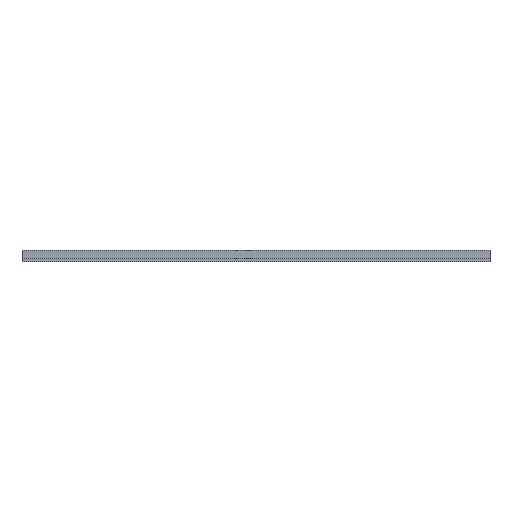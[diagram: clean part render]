
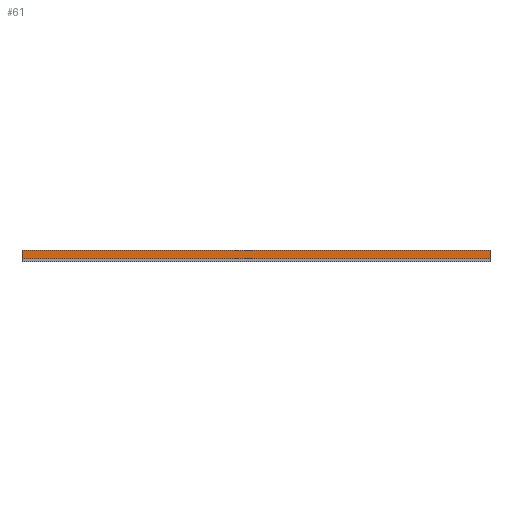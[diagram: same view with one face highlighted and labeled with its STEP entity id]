
A CAD part, front view. The second image highlights one B-rep face of the part: STEP entity #61.
In plain terms, the highlighted planar face has unit normal (0, -1, 0).
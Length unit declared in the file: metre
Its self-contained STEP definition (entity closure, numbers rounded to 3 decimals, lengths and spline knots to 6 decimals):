
#61 = ADVANCED_FACE( '', ( #128 ), #129, .T. );
#128 = FACE_OUTER_BOUND( '', #200, .T. );
#129 = PLANE( '', #201 );
#200 = EDGE_LOOP( '', ( #291, #292, #293, #294 ) );
#201 = AXIS2_PLACEMENT_3D( '', #295, #296, #297 );
#291 = ORIENTED_EDGE( '', *, *, #447, .F. );
#292 = ORIENTED_EDGE( '', *, *, #441, .F. );
#293 = ORIENTED_EDGE( '', *, *, #448, .T. );
#294 = ORIENTED_EDGE( '', *, *, #449, .T. );
#295 = CARTESIAN_POINT( '', ( 1.445319, -0.36, -0.452459 ) );
#296 = DIRECTION( '', ( 0., -1., 0. ) );
#297 = DIRECTION( '', ( 0., 0., -1. ) );
#441 = EDGE_CURVE( '', #525, #521, #527, .T. );
#447 = EDGE_CURVE( '', #521, #535, #536, .T. );
#448 = EDGE_CURVE( '', #525, #537, #538, .T. );
#449 = EDGE_CURVE( '', #537, #535, #539, .T. );
#521 = VERTEX_POINT( '', #636 );
#525 = VERTEX_POINT( '', #642 );
#527 = LINE( '', #645, #646 );
#535 = VERTEX_POINT( '', #657 );
#536 = LINE( '', #658, #659 );
#537 = VERTEX_POINT( '', #660 );
#538 = LINE( '', #661, #662 );
#539 = LINE( '', #663, #664 );
#636 = CARTESIAN_POINT( '', ( -1.554681, -0.36, -0.479634 ) );
#642 = CARTESIAN_POINT( '', ( 1.445319, -0.36, -0.479634 ) );
#645 = CARTESIAN_POINT( '', ( 1.445319, -0.36, -0.479634 ) );
#646 = VECTOR( '', #752, 1. );
#657 = CARTESIAN_POINT( '', ( -1.554681, -0.36, -0.425283 ) );
#658 = CARTESIAN_POINT( '', ( -1.554681, -0.36, -0.452459 ) );
#659 = VECTOR( '', #756, 1. );
#660 = CARTESIAN_POINT( '', ( 1.445319, -0.36, -0.425283 ) );
#661 = CARTESIAN_POINT( '', ( 1.445319, -0.36, -0.452459 ) );
#662 = VECTOR( '', #757, 1. );
#663 = CARTESIAN_POINT( '', ( 1.445319, -0.36, -0.425283 ) );
#664 = VECTOR( '', #758, 1. );
#752 = DIRECTION( '', ( -1., 0., 0. ) );
#756 = DIRECTION( '', ( 0., 0., 1. ) );
#757 = DIRECTION( '', ( 0., 0., 1. ) );
#758 = DIRECTION( '', ( -1., 0., 0. ) );
